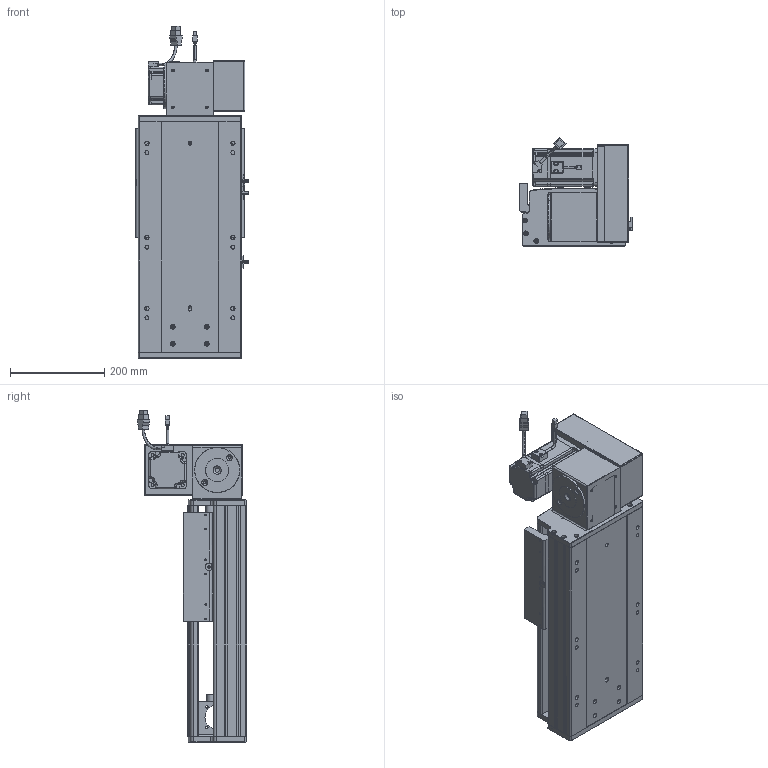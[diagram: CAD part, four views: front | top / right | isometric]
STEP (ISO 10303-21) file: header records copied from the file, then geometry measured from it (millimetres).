
FILE_DESCRIPTION (( 'STEP AP203' ), '1' );
FILE_NAME ('RY220-T-300-UR.SLDASM_150.step', '2022-07-25T08:42:18', ( '' ), ( '' ), 'SwSTEP 2.0', 'SolidWorks 2016', '' );
FILE_SCHEMA (( 'CONFIG_CONTROL_DESIGN' ));
Length unit declared in the file: millimetre
Products named in the file (14): RY220-同步轮副支撑座6304×2; RY220-T菁釱-300_150; 怢湛750W_ECMA-CX0807ES; RY220翋肮祭謫裔啣; RY220-T-湍謫欶(鍼踢); RY220翋肮祭謫釱; RY220-T-300-UR.SLDASM_150; RY220圉猾敕々湍臏賑輸; RY220-俋离672覜茼んえ; 覜茼ん672; 滅袉蝶18-15; RY220-T-300-奻裔啣_150; RY220-T-蛌殏萇儂假蚾啣(750W); 110A-T-肮祭謫釱傷裔
Assembly tree (18 placements, depth 2):
  RY220-T-300-UR.SLDASM_150
    RY220-T菁釱-300_150
    RY220翋肮祭謫釱
    覜茼ん672  x3
    RY220圉猾敕々湍臏賑輸
    RY220-T-300-奻裔啣_150
    RY220-俋离672覜茼んえ
    滅袉蝶18-15  x3
    RY220翋肮祭謫裔啣  x2
    110A-T-肮祭謫釱傷裔
    怢湛750W_ECMA-CX0807ES
    RY220-T-湍謫欶(鍼踢)
    RY220-T-蛌殏萇儂假蚾啣(750W)
    RY220-同步轮副支撑座6304×2
Bounding box: 238.7 x 231.74 x 703.27 mm (x, y, z)
Volume: 6759457.5 mm3; surface area: 1787443.6 mm2
Topology: 19 solids, 19 shells, 2456 faces, 6763 edges, 4322 vertices
Faces by surface type: cylinder 1112, plane 1069, cone 193, bspline 56, sphere 16, torus 10
Entity records: 81523 total; most frequent: CARTESIAN_POINT 23393, ORIENTED_EDGE 12122, DIRECTION 11308, EDGE_CURVE 6061, AXIS2_PLACEMENT_3D 3946, VERTEX_POINT 3946, VECTOR 3416, LINE 3416
